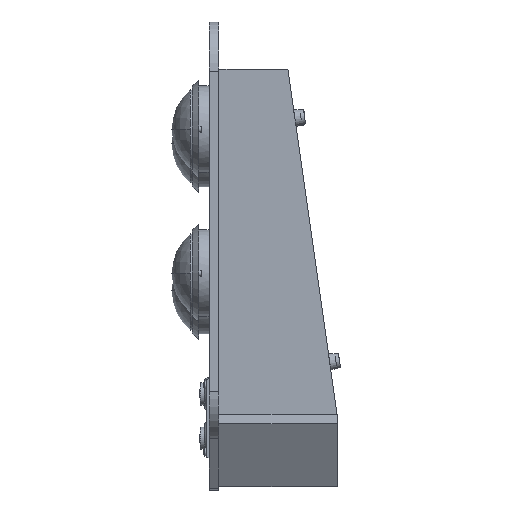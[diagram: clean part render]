
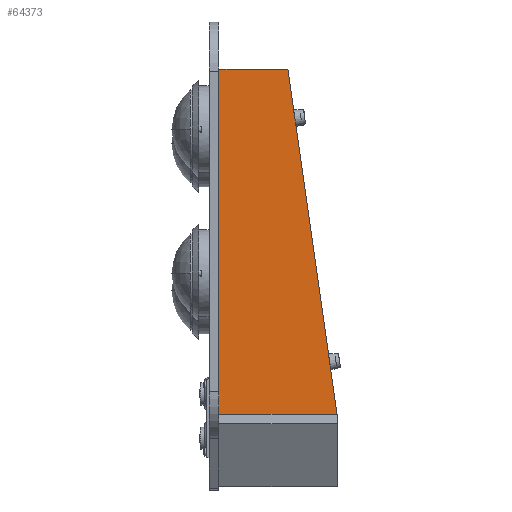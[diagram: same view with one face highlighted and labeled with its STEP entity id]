
A CAD part, left-side view. The second image highlights one B-rep face of the part: STEP entity #64373.
In plain terms, the highlighted planar face has unit normal (-1, 0, 0) as drawn and (0, 0, -1) by its records, which use the part's own axes.
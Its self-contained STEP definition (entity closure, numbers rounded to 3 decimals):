
#3855 = ORIENTED_EDGE ( 'NONE', *, *, #11955, .F. ) ;
#6682 = LINE ( 'NONE', #59533, #95691 ) ;
#7178 = VERTEX_POINT ( 'NONE', #25269 ) ;
#7560 = VECTOR ( 'NONE', #46733, 1000. ) ;
#8678 = LINE ( 'NONE', #24967, #7560 ) ;
#11596 = CARTESIAN_POINT ( 'NONE',  ( 0., -70., 0. ) ) ;
#11675 = VERTEX_POINT ( 'NONE', #37029 ) ;
#11955 = EDGE_CURVE ( 'NONE', #11675, #15127, #50562, .T. ) ;
#14577 = ORIENTED_EDGE ( 'NONE', *, *, #86910, .F. ) ;
#15127 = VERTEX_POINT ( 'NONE', #19468 ) ;
#15780 = EDGE_CURVE ( 'NONE', #7178, #73745, #37994, .T. ) ;
#17144 = EDGE_CURVE ( 'NONE', #73745, #11675, #6682, .T. ) ;
#19468 = CARTESIAN_POINT ( 'NONE',  ( 350., 0., 0. ) ) ;
#22928 = EDGE_LOOP ( 'NONE', ( #86026, #14577, #3855, #26963 ) ) ;
#24967 = CARTESIAN_POINT ( 'NONE',  ( 0., 0., 0. ) ) ;
#25269 = CARTESIAN_POINT ( 'NONE',  ( 0., 0., 0. ) ) ;
#26963 = ORIENTED_EDGE ( 'NONE', *, *, #17144, .F. ) ;
#33342 = VECTOR ( 'NONE', #71783, 1000. ) ;
#34024 = AXIS2_PLACEMENT_3D ( 'NONE', #79203, #50209, #87249 ) ;
#37029 = CARTESIAN_POINT ( 'NONE',  ( 350., -120., 0. ) ) ;
#37994 = LINE ( 'NONE', #11596, #33342 ) ;
#46733 = DIRECTION ( 'NONE',  ( -1., 0., 0. ) ) ;
#48254 = VECTOR ( 'NONE', #77985, 1000. ) ;
#50209 = DIRECTION ( 'NONE',  ( 0., 0., -1. ) ) ;
#50562 = LINE ( 'NONE', #51295, #48254 ) ;
#51295 = CARTESIAN_POINT ( 'NONE',  ( 350., 0., 0. ) ) ;
#59533 = CARTESIAN_POINT ( 'NONE',  ( 350., -120., 0. ) ) ;
#64373 = ADVANCED_FACE ( 'NONE', ( #69757 ), #94037, .T. ) ;
#69757 = FACE_OUTER_BOUND ( 'NONE', #22928, .T. ) ;
#71783 = DIRECTION ( 'NONE',  ( 0., -1., 0. ) ) ;
#73745 = VERTEX_POINT ( 'NONE', #75260 ) ;
#75260 = CARTESIAN_POINT ( 'NONE',  ( 0., -70., 0. ) ) ;
#77985 = DIRECTION ( 'NONE',  ( 0., 1., 0. ) ) ;
#79203 = CARTESIAN_POINT ( 'NONE',  ( 0., 0., 0. ) ) ;
#86026 = ORIENTED_EDGE ( 'NONE', *, *, #15780, .F. ) ;
#86910 = EDGE_CURVE ( 'NONE', #15127, #7178, #8678, .T. ) ;
#87249 = DIRECTION ( 'NONE',  ( -1., 0., 0. ) ) ;
#88567 = DIRECTION ( 'NONE',  ( 0.99, -0.141, 0. ) ) ;
#94037 = PLANE ( 'NONE',  #34024 ) ;
#95691 = VECTOR ( 'NONE', #88567, 1000. ) ;
